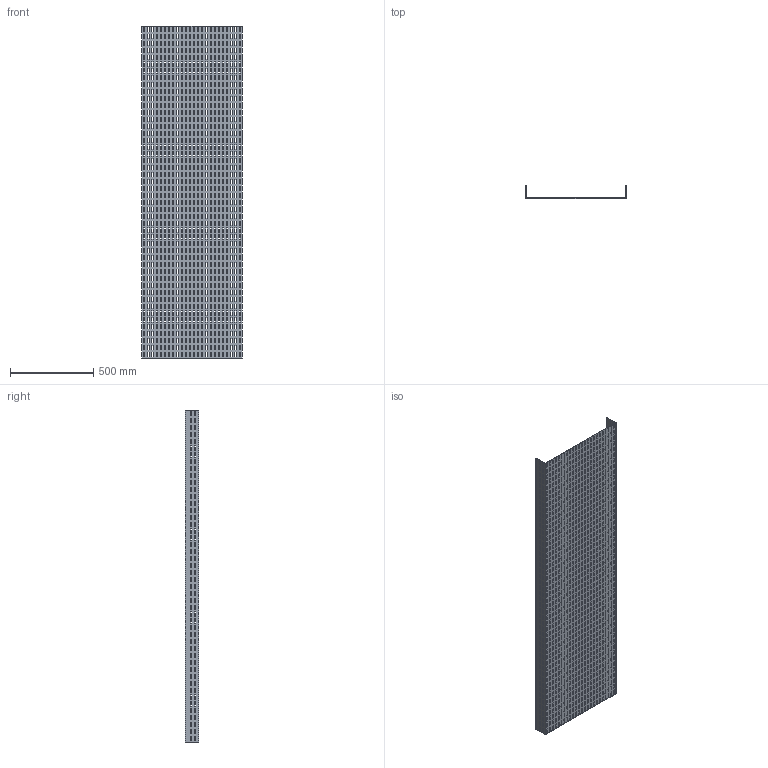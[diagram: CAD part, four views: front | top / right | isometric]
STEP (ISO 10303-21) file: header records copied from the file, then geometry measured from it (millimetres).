
FILE_DESCRIPTION (( 'STEP AP214' ), '1' );
FILE_NAME ('01F2C600.step', '2025-02-21T13:27:06', ( '' ), ( '' ), 'SwSTEP 2.0', 'SolidWorks 2023', '' );
FILE_SCHEMA (( 'AUTOMOTIVE_DESIGN' ));
Products named in the file (1): 01F2C600
Bounding box: 604 x 79 x 2000 mm (x, y, z)
Volume: 4461800 mm3; surface area: 2869941 mm2
Topology: 1 solids, 1 shells, 5386 faces, 16152 edges, 10768 vertices
Faces by surface type: plane 5386
Entity records: 183095 total; most frequent: CARTESIAN_POINT 32307, ORIENTED_EDGE 32304, DIRECTION 26926, EDGE_CURVE 16152, VECTOR 16152, LINE 16152, VERTEX_POINT 10768, EDGE_LOOP 8074
